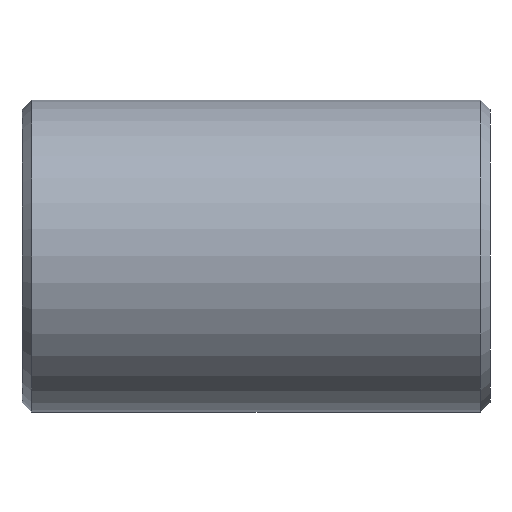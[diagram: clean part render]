
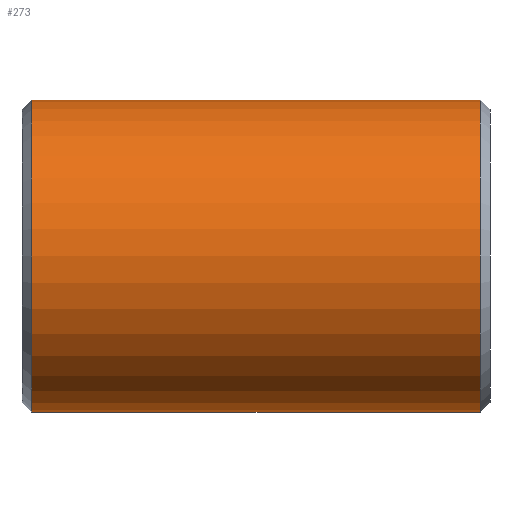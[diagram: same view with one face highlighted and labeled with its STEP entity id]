
A CAD part, front view. The second image highlights one B-rep face of the part: STEP entity #273.
In plain terms, the highlighted cylindrical face has radius 16 mm (diameter 32 mm), a partial arc.
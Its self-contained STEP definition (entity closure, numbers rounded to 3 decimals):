
#5 = DIRECTION ( 'NONE',  ( -1., 0., 0. ) ) ;
#17 = AXIS2_PLACEMENT_3D ( 'NONE', #165, #414, #197 ) ;
#25 = VECTOR ( 'NONE', #5, 1000. ) ;
#30 = DIRECTION ( 'NONE',  ( -1., 0., 0. ) ) ;
#38 = ORIENTED_EDGE ( 'NONE', *, *, #106, .T. ) ;
#49 = EDGE_LOOP ( 'NONE', ( #184, #55, #96, #38 ) ) ;
#55 = ORIENTED_EDGE ( 'NONE', *, *, #226, .T. ) ;
#81 = CARTESIAN_POINT ( 'NONE',  ( 47., 0., -16. ) ) ;
#82 = CIRCLE ( 'NONE', #363, 16. ) ;
#85 = FACE_OUTER_BOUND ( 'NONE', #49, .T. ) ;
#96 = ORIENTED_EDGE ( 'NONE', *, *, #159, .T. ) ;
#99 = VERTEX_POINT ( 'NONE', #258 ) ;
#105 = VERTEX_POINT ( 'NONE', #81 ) ;
#106 = EDGE_CURVE ( 'NONE', #374, #99, #82, .T. ) ;
#133 = CARTESIAN_POINT ( 'NONE',  ( 1., 0., 16. ) ) ;
#150 = DIRECTION ( 'NONE',  ( -1., 0., 0. ) ) ;
#155 = AXIS2_PLACEMENT_3D ( 'NONE', #308, #30, #203 ) ;
#159 = EDGE_CURVE ( 'NONE', #162, #374, #209, .T. ) ;
#162 = VERTEX_POINT ( 'NONE', #404 ) ;
#165 = CARTESIAN_POINT ( 'NONE',  ( 47., 0., 0. ) ) ;
#169 = CYLINDRICAL_SURFACE ( 'NONE', #155, 16. ) ;
#177 = EDGE_CURVE ( 'NONE', #105, #99, #403, .T. ) ;
#184 = ORIENTED_EDGE ( 'NONE', *, *, #177, .F. ) ;
#197 = DIRECTION ( 'NONE',  ( 0., 0., 1. ) ) ;
#201 = VECTOR ( 'NONE', #150, 1000. ) ;
#203 = DIRECTION ( 'NONE',  ( 0., 0., 1. ) ) ;
#209 = LINE ( 'NONE', #430, #201 ) ;
#226 = EDGE_CURVE ( 'NONE', #105, #162, #370, .T. ) ;
#237 = CARTESIAN_POINT ( 'NONE',  ( 0., 0., -16. ) ) ;
#258 = CARTESIAN_POINT ( 'NONE',  ( 1., 0., -16. ) ) ;
#273 = ADVANCED_FACE ( 'NONE', ( #85 ), #169, .T. ) ;
#296 = DIRECTION ( 'NONE',  ( 1., 0., 0. ) ) ;
#308 = CARTESIAN_POINT ( 'NONE',  ( 0., 0., 0. ) ) ;
#338 = CARTESIAN_POINT ( 'NONE',  ( 1., 0., 0. ) ) ;
#350 = DIRECTION ( 'NONE',  ( 0., 0., -1. ) ) ;
#363 = AXIS2_PLACEMENT_3D ( 'NONE', #338, #296, #350 ) ;
#370 = CIRCLE ( 'NONE', #17, 16. ) ;
#374 = VERTEX_POINT ( 'NONE', #133 ) ;
#403 = LINE ( 'NONE', #237, #25 ) ;
#404 = CARTESIAN_POINT ( 'NONE',  ( 47., 0., 16. ) ) ;
#414 = DIRECTION ( 'NONE',  ( -1., 0., 0. ) ) ;
#430 = CARTESIAN_POINT ( 'NONE',  ( 0., 0., 16. ) ) ;
